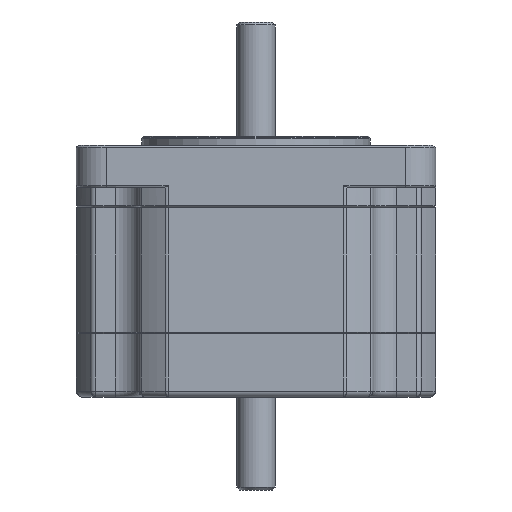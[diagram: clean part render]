
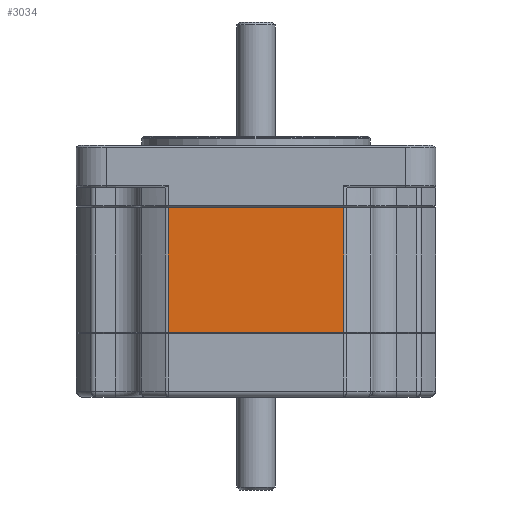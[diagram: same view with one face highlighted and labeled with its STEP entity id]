
A CAD part, front view. The second image highlights one B-rep face of the part: STEP entity #3034.
In plain terms, the highlighted planar face has unit normal (0, -1, 0).
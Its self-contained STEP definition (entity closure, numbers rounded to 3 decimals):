
#252 = CARTESIAN_POINT ( 'NONE',  ( 14.671, -30., -31.4 ) ) ;
#361 = CARTESIAN_POINT ( 'NONE',  ( -14.671, -30., -10.4 ) ) ;
#525 = VECTOR ( 'NONE', #19040, 1000. ) ;
#995 = LINE ( 'NONE', #16006, #525 ) ;
#1199 = LINE ( 'NONE', #252, #4748 ) ;
#1614 = LINE ( 'NONE', #12742, #17180 ) ;
#1786 = CARTESIAN_POINT ( 'NONE',  ( 14.671, -30., -31.4 ) ) ;
#2114 = VERTEX_POINT ( 'NONE', #361 ) ;
#3034 = ADVANCED_FACE ( 'NONE', ( #3216 ), #18270, .F. ) ;
#3135 = DIRECTION ( 'NONE',  ( 0., 0., 1. ) ) ;
#3216 = FACE_OUTER_BOUND ( 'NONE', #19043, .T. ) ;
#3427 = VECTOR ( 'NONE', #3135, 1000. ) ;
#4114 = VERTEX_POINT ( 'NONE', #7575 ) ;
#4748 = VECTOR ( 'NONE', #10734, 1000. ) ;
#6355 = DIRECTION ( 'NONE',  ( 0., 1., 0. ) ) ;
#7484 = LINE ( 'NONE', #13691, #3427 ) ;
#7575 = CARTESIAN_POINT ( 'NONE',  ( 14.671, -30., -31.2 ) ) ;
#7821 = ORIENTED_EDGE ( 'NONE', *, *, #17834, .T. ) ;
#8741 = EDGE_CURVE ( 'NONE', #4114, #9429, #1199, .T. ) ;
#9429 = VERTEX_POINT ( 'NONE', #10198 ) ;
#10198 = CARTESIAN_POINT ( 'NONE',  ( 14.671, -30., -10.4 ) ) ;
#10734 = DIRECTION ( 'NONE',  ( 0., 0., 1. ) ) ;
#12311 = CARTESIAN_POINT ( 'NONE',  ( -14.671, -30., -31.2 ) ) ;
#12504 = VERTEX_POINT ( 'NONE', #12311 ) ;
#12742 = CARTESIAN_POINT ( 'NONE',  ( 14.671, -30., -10.4 ) ) ;
#12870 = DIRECTION ( 'NONE',  ( -1., 0., 0. ) ) ;
#13000 = EDGE_CURVE ( 'NONE', #12504, #2114, #7484, .T. ) ;
#13691 = CARTESIAN_POINT ( 'NONE',  ( -14.671, -30., -31.4 ) ) ;
#13952 = ORIENTED_EDGE ( 'NONE', *, *, #15281, .T. ) ;
#15281 = EDGE_CURVE ( 'NONE', #12504, #4114, #995, .T. ) ;
#15902 = AXIS2_PLACEMENT_3D ( 'NONE', #1786, #6355, #16884 ) ;
#16006 = CARTESIAN_POINT ( 'NONE',  ( 14.671, -30., -31.2 ) ) ;
#16528 = ORIENTED_EDGE ( 'NONE', *, *, #8741, .T. ) ;
#16884 = DIRECTION ( 'NONE',  ( 0., 0., 1. ) ) ;
#17180 = VECTOR ( 'NONE', #12870, 1000. ) ;
#17834 = EDGE_CURVE ( 'NONE', #9429, #2114, #1614, .T. ) ;
#17887 = ORIENTED_EDGE ( 'NONE', *, *, #13000, .F. ) ;
#18270 = PLANE ( 'NONE',  #15902 ) ;
#19040 = DIRECTION ( 'NONE',  ( 1., 0., 0. ) ) ;
#19043 = EDGE_LOOP ( 'NONE', ( #17887, #13952, #16528, #7821 ) ) ;
